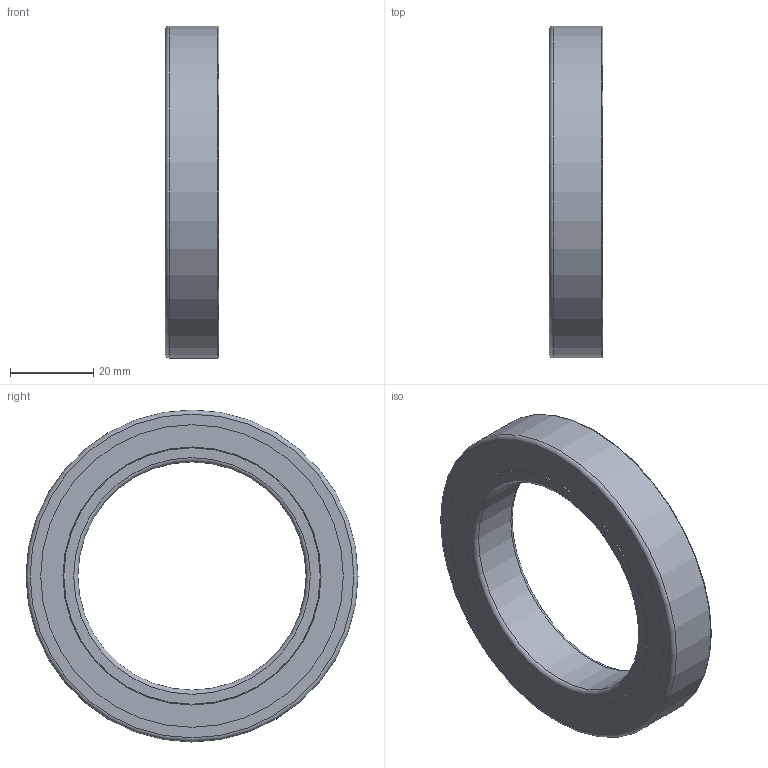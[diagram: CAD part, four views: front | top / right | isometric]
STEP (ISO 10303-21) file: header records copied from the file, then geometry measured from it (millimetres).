
FILE_DESCRIPTION(/* description */ (''),/* implementation_level */ '2;1');
FILE_NAME(/* name */ 'KH_61911_TA.step',/* time_stamp */ '2013-03-07T07:06:12+01:00',/* author */ ('Marian'),/* organization */ ('GMN'),/* preprocessor_version */ 'ST-DEVELOPER v11',/* originating_system */ 'SIEMENS UGS NX 6.0',/* authorisation */ '');
FILE_SCHEMA (('CONFIG_CONTROL_DESIGN'));
Length unit declared in the file: millimetre
Products named in the file (1): KH_61911_TA
Bounding box: 13 x 80 x 80 mm (x, y, z)
Volume: 27479.1 mm3; surface area: 26117.9 mm2
Topology: 35 solids, 35 shells, 92 faces, 236 edges, 154 vertices
Faces by surface type: cylinder 43, sphere 30, plane 12, torus 6, cone 1
Full cylindrical faces by diameter (mm): 5.756 x30, 55 x1, 61.8 x1, 62.2 x1, 63.1 x1, 63.5 x1, 66.476 x1, 69.852 x1, 70.252 x1, 72.9 x2, 74.5 x2, 80 x1
Entity records: 5362 total; most frequent: CARTESIAN_POINT 3727, DIRECTION 250, FACE_BOUND 214, EDGE_LOOP 184, ORIENTED_EDGE 184, AXIS2_PLACEMENT_3D 125, VERTEX_POINT 122, ADVANCED_FACE 92
